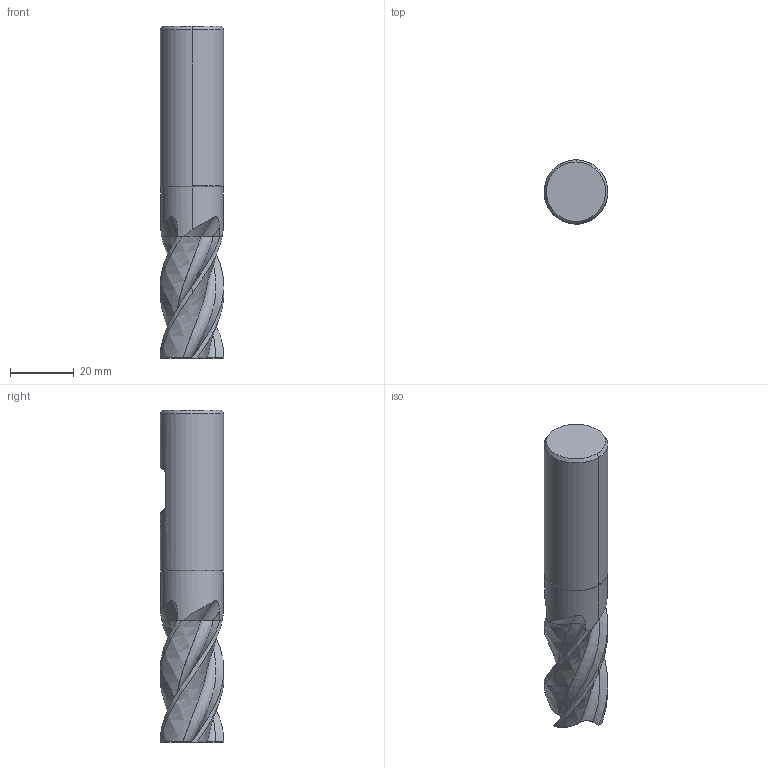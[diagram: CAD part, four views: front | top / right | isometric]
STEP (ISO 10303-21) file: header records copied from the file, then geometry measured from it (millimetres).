
FILE_DESCRIPTION(('no description'),'unknown implementation level');
FILE_NAME('solidXM_joizwx5lDU_tuIuP_ta4K8ts_1.STP',' ',('CIMSOURCE GmbH'),('CADClick - KiM GmbH - www.kimweb.de'),'unknown preprocess','ACIS','unknown authorization');
FILE_SCHEMA(('automotive_design'));
Length unit declared in the file: millimetre
Products named in the file (2): NOCUT; CUT
Bounding box: 20 x 20 x 104 mm (x, y, z)
Volume: 26402 mm3; surface area: 9876 mm2
Topology: 2 solids, 2 shells, 119 faces, 336 edges, 220 vertices
Faces by surface type: bspline 48, plane 26, cone 18, cylinder 15, revolution 12
Entity records: 22220 total; most frequent: CARTESIAN_POINT 15829, STYLED_ITEM 677, PRESENTATION_STYLE_ASSIGNMENT 677, COLOUR_RGB 677, ORIENTED_EDGE 672, DIRECTION 355, EDGE_CURVE 336, CURVE_STYLE 336
